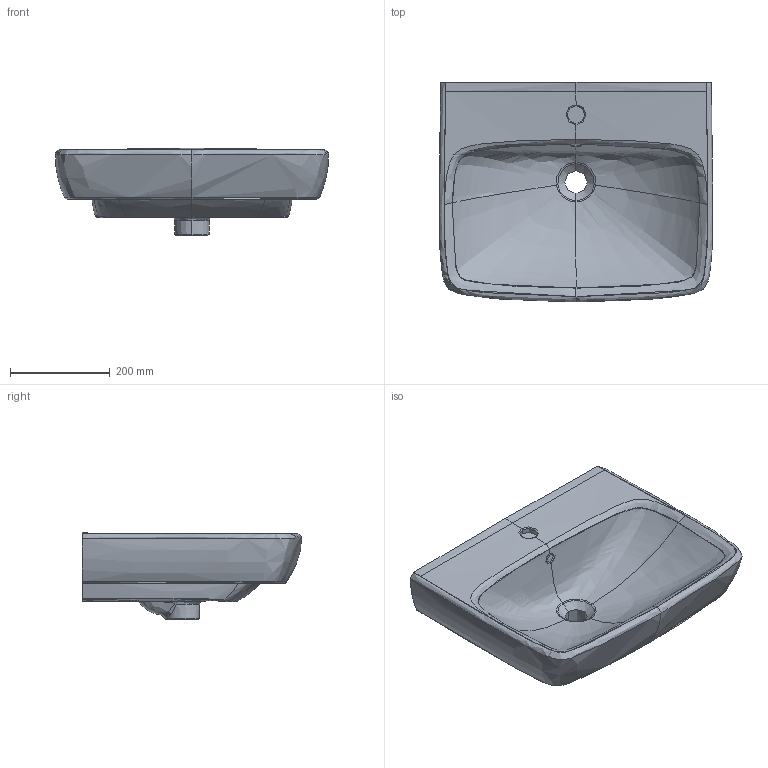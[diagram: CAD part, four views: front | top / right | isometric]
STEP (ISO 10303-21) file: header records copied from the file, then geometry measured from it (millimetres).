
FILE_DESCRIPTION(/* description */ (''),/* implementation_level */ '2;1');
FILE_NAME(/* name */ 'C:\Planerdaten\Export PLA\500.290.01.1\stp\500290.stp',/* time_stamp */ '2020-05-01T05:22:59-07:00',/* author */ ('JANAN'),/* organization */ (''),/* preprocessor_version */ 'ST-DEVELOPER v16.13',/* originating_system */ 'Autodesk Inventor 2018',/* authorisation */ '');
FILE_SCHEMA (('AUTOMOTIVE_DESIGN { 1 0 10303 214 3 1 1 }'));
Products named in the file (1): WT Ge+SnvS B55 m/ÜLF m/HLo
Bounding box: 548.39 x 440 x 174.99 mm (x, y, z)
Volume: 16397188.2 mm3; surface area: 743576.2 mm2
Topology: 1 solids, 1 shells, 135 faces, 335 edges, 201 vertices
Faces by surface type: bspline 107, plane 19, cylinder 6, cone 2, torus 1
Entity records: 56395 total; most frequent: CARTESIAN_POINT 53781, ORIENTED_EDGE 664, EDGE_CURVE 332, DIRECTION 276, VERTEX_POINT 201, B_SPLINE_CURVE_WITH_KNOTS 180, EDGE_LOOP 139, STYLED_ITEM 136
